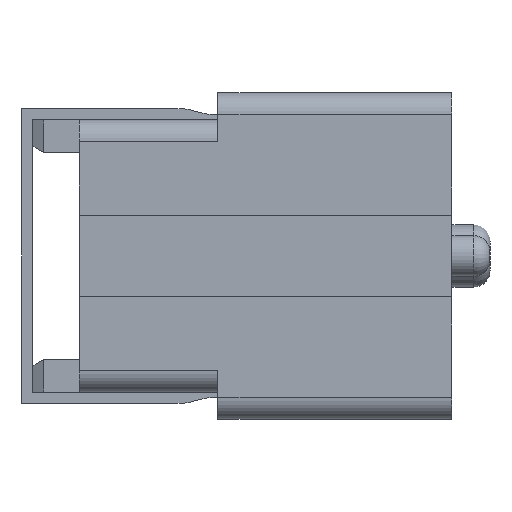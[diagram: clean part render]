
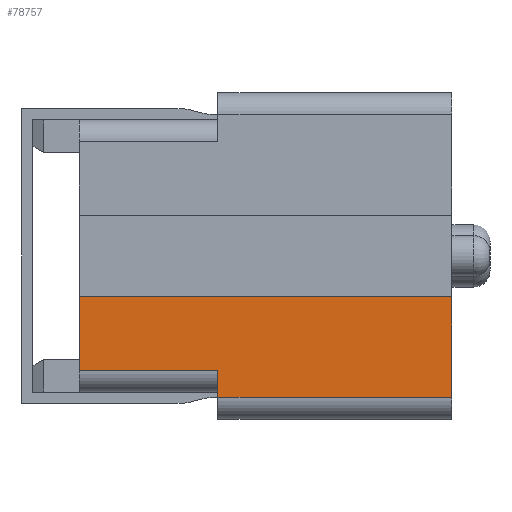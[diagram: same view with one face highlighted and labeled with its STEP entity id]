
A CAD part, left-side view. The second image highlights one B-rep face of the part: STEP entity #78757.
In plain terms, the highlighted planar face has unit normal (-1, 0, 0).
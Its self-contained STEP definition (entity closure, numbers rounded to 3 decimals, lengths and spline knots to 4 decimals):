
#1359 = ORIENTED_EDGE ( 'NONE', *, *, #128370, .T. ) ;
#2614 = DIRECTION ( 'NONE',  ( 0., -1., 0. ) ) ;
#3518 = VERTEX_POINT ( 'NONE', #13243 ) ;
#5456 = CARTESIAN_POINT ( 'NONE',  ( -10.8325, -4.7432, -2.6 ) ) ;
#8665 = ORIENTED_EDGE ( 'NONE', *, *, #121201, .F. ) ;
#13243 = CARTESIAN_POINT ( 'NONE',  ( -10.8325, -0.4432, -2.6 ) ) ;
#21731 = EDGE_CURVE ( 'NONE', #155217, #316129, #235284, .T. ) ;
#36548 = DIRECTION ( 'NONE',  ( 0., 0., 1. ) ) ;
#36975 = LINE ( 'NONE', #139193, #228176 ) ;
#38220 = LINE ( 'NONE', #266149, #175588 ) ;
#42991 = DIRECTION ( 'NONE',  ( 0., 1., 0. ) ) ;
#46080 = VERTEX_POINT ( 'NONE', #5456 ) ;
#46253 = DIRECTION ( 'NONE',  ( 1., 0., 0. ) ) ;
#50589 = ORIENTED_EDGE ( 'NONE', *, *, #21731, .T. ) ;
#59107 = VECTOR ( 'NONE', #291346, 1000. ) ;
#78757 = ADVANCED_FACE ( 'NONE', ( #143530 ), #247449, .F. ) ;
#81130 = CARTESIAN_POINT ( 'NONE',  ( -10.8325, 2.9568, -2.1 ) ) ;
#81283 = AXIS2_PLACEMENT_3D ( 'NONE', #141892, #46253, #42991 ) ;
#85803 = CARTESIAN_POINT ( 'NONE',  ( -10.8325, -0.4432, -2.1 ) ) ;
#86309 = CARTESIAN_POINT ( 'NONE',  ( -10.8325, 2.9568, -2.6 ) ) ;
#86863 = CARTESIAN_POINT ( 'NONE',  ( -10.8325, -4.7432, 3. ) ) ;
#90143 = LINE ( 'NONE', #86863, #59107 ) ;
#96623 = DIRECTION ( 'NONE',  ( 0., 1., 0. ) ) ;
#119015 = DIRECTION ( 'NONE',  ( 0., 0., 1. ) ) ;
#120245 = VERTEX_POINT ( 'NONE', #182853 ) ;
#121201 = EDGE_CURVE ( 'NONE', #277469, #46080, #90143, .T. ) ;
#128370 = EDGE_CURVE ( 'NONE', #3518, #46080, #203762, .T. ) ;
#139193 = CARTESIAN_POINT ( 'NONE',  ( -10.8325, -0.4432, -2.5 ) ) ;
#141892 = CARTESIAN_POINT ( 'NONE',  ( -10.8325, 2.9568, 3. ) ) ;
#143530 = FACE_OUTER_BOUND ( 'NONE', #326265, .T. ) ;
#155217 = VERTEX_POINT ( 'NONE', #182724 ) ;
#165499 = ORIENTED_EDGE ( 'NONE', *, *, #242684, .T. ) ;
#175588 = VECTOR ( 'NONE', #36548, 1000. ) ;
#182724 = CARTESIAN_POINT ( 'NONE',  ( -10.8325, 2.1068, -2.1 ) ) ;
#182853 = CARTESIAN_POINT ( 'NONE',  ( -10.8325, 2.1068, -0.75 ) ) ;
#187657 = VECTOR ( 'NONE', #2614, 1000. ) ;
#188036 = ORIENTED_EDGE ( 'NONE', *, *, #276641, .F. ) ;
#200461 = CARTESIAN_POINT ( 'NONE',  ( -10.8325, -1.7432, -0.75 ) ) ;
#203762 = LINE ( 'NONE', #86309, #187657 ) ;
#217702 = ORIENTED_EDGE ( 'NONE', *, *, #331206, .F. ) ;
#220337 = VECTOR ( 'NONE', #96623, 1000. ) ;
#228176 = VECTOR ( 'NONE', #119015, 1000. ) ;
#235284 = LINE ( 'NONE', #81130, #314292 ) ;
#242684 = EDGE_CURVE ( 'NONE', #277469, #120245, #327907, .T. ) ;
#247449 = PLANE ( 'NONE',  #81283 ) ;
#247704 = CARTESIAN_POINT ( 'NONE',  ( -10.8325, -4.7432, -0.75 ) ) ;
#266149 = CARTESIAN_POINT ( 'NONE',  ( -10.8325, 2.1068, -3. ) ) ;
#276641 = EDGE_CURVE ( 'NONE', #3518, #316129, #36975, .T. ) ;
#277469 = VERTEX_POINT ( 'NONE', #247704 ) ;
#291346 = DIRECTION ( 'NONE',  ( 0., 0., -1. ) ) ;
#312427 = DIRECTION ( 'NONE',  ( 0., -1., 0. ) ) ;
#314292 = VECTOR ( 'NONE', #312427, 1000. ) ;
#316129 = VERTEX_POINT ( 'NONE', #85803 ) ;
#326265 = EDGE_LOOP ( 'NONE', ( #1359, #8665, #165499, #217702, #50589, #188036 ) ) ;
#327907 = LINE ( 'NONE', #200461, #220337 ) ;
#331206 = EDGE_CURVE ( 'NONE', #155217, #120245, #38220, .T. ) ;
